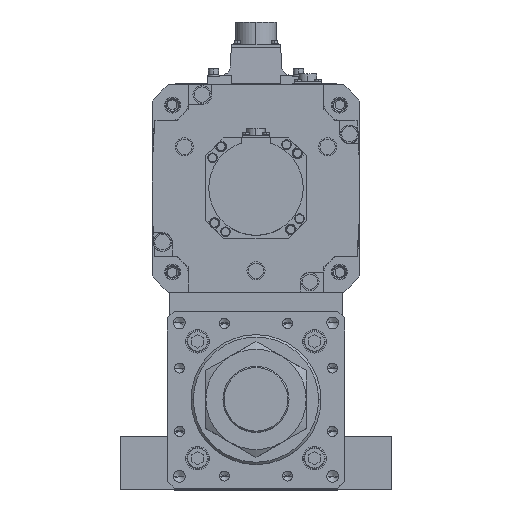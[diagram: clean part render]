
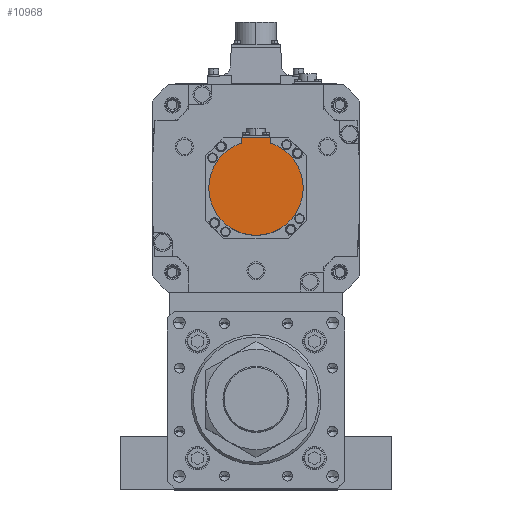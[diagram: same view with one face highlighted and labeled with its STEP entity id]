
A CAD part, top view. The second image highlights one B-rep face of the part: STEP entity #10968.
In plain terms, the highlighted planar face has unit normal (0, 0, 1) as drawn and (0, 0, -1) by its records, which use the part's own axes.
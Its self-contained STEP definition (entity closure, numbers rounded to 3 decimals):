
#810 = EDGE_CURVE ( 'NONE', #47881, #45943, #955, .T. ) ;
#955 = CIRCLE ( 'NONE', #32466, 40. ) ;
#1042 = VERTEX_POINT ( 'NONE', #17829 ) ;
#1893 = DIRECTION ( 'NONE',  ( 0., 0., 1. ) ) ;
#3503 = DIRECTION ( 'NONE',  ( 0., 0., 1. ) ) ;
#3729 = CIRCLE ( 'NONE', #9827, 40. ) ;
#7282 = DIRECTION ( 'NONE',  ( 1., 0., 0. ) ) ;
#7863 = VECTOR ( 'NONE', #51667, 1000. ) ;
#8856 = LINE ( 'NONE', #9631, #45388 ) ;
#9251 = VECTOR ( 'NONE', #55853, 1000. ) ;
#9631 = CARTESIAN_POINT ( 'NONE',  ( 12., -1.249, -228. ) ) ;
#9827 = AXIS2_PLACEMENT_3D ( 'NONE', #33455, #19811, #7282 ) ;
#10803 = AXIS2_PLACEMENT_3D ( 'NONE', #14811, #1893, #27493 ) ;
#10968 = ADVANCED_FACE ( 'NONE', ( #37549 ), #30229, .F. ) ;
#11296 = VERTEX_POINT ( 'NONE', #45641 ) ;
#12455 = CIRCLE ( 'NONE', #10803, 40. ) ;
#12752 = ORIENTED_EDGE ( 'NONE', *, *, #810, .F. ) ;
#14811 = CARTESIAN_POINT ( 'NONE',  ( 0., 0., -228. ) ) ;
#17402 = CARTESIAN_POINT ( 'NONE',  ( 12., -42.5, -228. ) ) ;
#17649 = DIRECTION ( 'NONE',  ( 0., 1., 0. ) ) ;
#17829 = CARTESIAN_POINT ( 'NONE',  ( -12., -42.5, -228. ) ) ;
#19811 = DIRECTION ( 'NONE',  ( 0., 0., 1. ) ) ;
#20120 = DIRECTION ( 'NONE',  ( 1., 0., 0. ) ) ;
#20936 = ORIENTED_EDGE ( 'NONE', *, *, #45328, .F. ) ;
#21142 = DIRECTION ( 'NONE',  ( 1., 0., 0. ) ) ;
#23110 = CARTESIAN_POINT ( 'NONE',  ( 40., 0., -228. ) ) ;
#23245 = EDGE_CURVE ( 'NONE', #1042, #37529, #31610, .T. ) ;
#24907 = EDGE_CURVE ( 'NONE', #45943, #11296, #12455, .T. ) ;
#24965 = ORIENTED_EDGE ( 'NONE', *, *, #24907, .F. ) ;
#25093 = CARTESIAN_POINT ( 'NONE',  ( -12., -40.329, -228. ) ) ;
#27493 = DIRECTION ( 'NONE',  ( 1., 0., 0. ) ) ;
#30176 = VERTEX_POINT ( 'NONE', #17402 ) ;
#30229 = PLANE ( 'NONE',  #51588 ) ;
#31145 = CARTESIAN_POINT ( 'NONE',  ( 12., -38.158, -228. ) ) ;
#31610 = LINE ( 'NONE', #25093, #9251 ) ;
#32466 = AXIS2_PLACEMENT_3D ( 'NONE', #54689, #46780, #20120 ) ;
#33455 = CARTESIAN_POINT ( 'NONE',  ( 0., 0., -228. ) ) ;
#34706 = CARTESIAN_POINT ( 'NONE',  ( 0., -42.5, -228. ) ) ;
#36946 = EDGE_CURVE ( 'NONE', #30176, #47881, #8856, .T. ) ;
#37529 = VERTEX_POINT ( 'NONE', #39893 ) ;
#37549 = FACE_OUTER_BOUND ( 'NONE', #39578, .T. ) ;
#38375 = CARTESIAN_POINT ( 'NONE',  ( 0., -1.249, -228. ) ) ;
#39096 = LINE ( 'NONE', #34706, #7863 ) ;
#39578 = EDGE_LOOP ( 'NONE', ( #53380, #20936, #24965, #12752, #42536, #47440 ) ) ;
#39893 = CARTESIAN_POINT ( 'NONE',  ( -12., -38.158, -228. ) ) ;
#42536 = ORIENTED_EDGE ( 'NONE', *, *, #36946, .F. ) ;
#45328 = EDGE_CURVE ( 'NONE', #11296, #37529, #3729, .T. ) ;
#45388 = VECTOR ( 'NONE', #17649, 1000. ) ;
#45641 = CARTESIAN_POINT ( 'NONE',  ( -40., 0., -228. ) ) ;
#45943 = VERTEX_POINT ( 'NONE', #23110 ) ;
#46780 = DIRECTION ( 'NONE',  ( 0., 0., 1. ) ) ;
#47440 = ORIENTED_EDGE ( 'NONE', *, *, #48349, .T. ) ;
#47881 = VERTEX_POINT ( 'NONE', #31145 ) ;
#48349 = EDGE_CURVE ( 'NONE', #30176, #1042, #39096, .T. ) ;
#51588 = AXIS2_PLACEMENT_3D ( 'NONE', #38375, #3503, #21142 ) ;
#51667 = DIRECTION ( 'NONE',  ( -1., 0., 0. ) ) ;
#53380 = ORIENTED_EDGE ( 'NONE', *, *, #23245, .T. ) ;
#54689 = CARTESIAN_POINT ( 'NONE',  ( 0., 0., -228. ) ) ;
#55853 = DIRECTION ( 'NONE',  ( 0., 1., 0. ) ) ;
